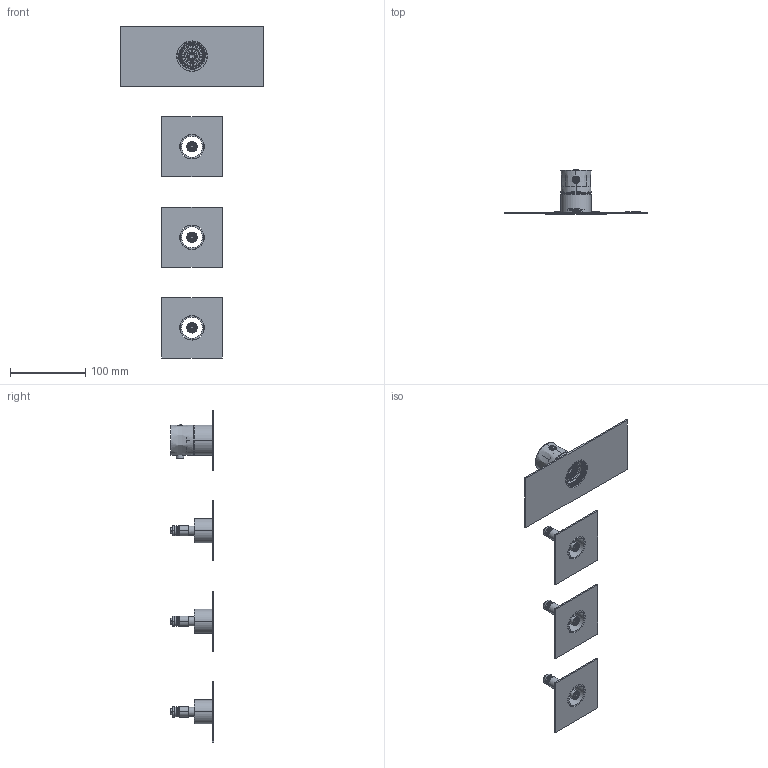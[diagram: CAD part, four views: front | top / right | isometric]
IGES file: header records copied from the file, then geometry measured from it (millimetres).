
Start section:  PTC IGES file: 3d_sw0001.igs
Global section: file name: 3d_sw0001.igs; native system: Creo Parametric by PTC Inc.; preprocessor: 2025443; author: volponeff; organization: Unknown; date: 20260518.104541; units: millimetre
Bounding box: 190 x 58.1 x 440 mm (x, y, z)
Surface area: 119925.1 mm2 (no closed solid volume)
Topology: 0 solids, 0 shells, 1700 faces, 8694 edges, 8689 vertices
Faces by surface type: bspline 1091, revolution 609
